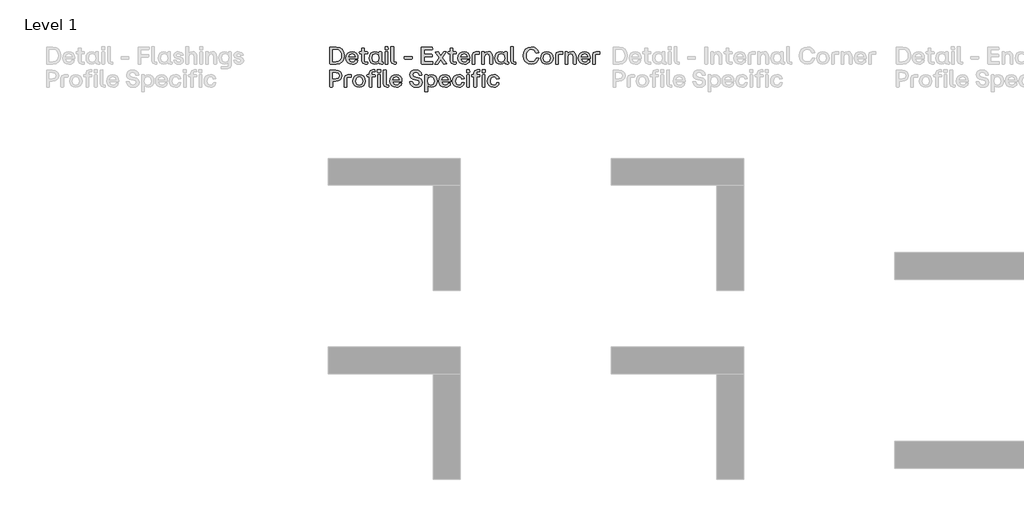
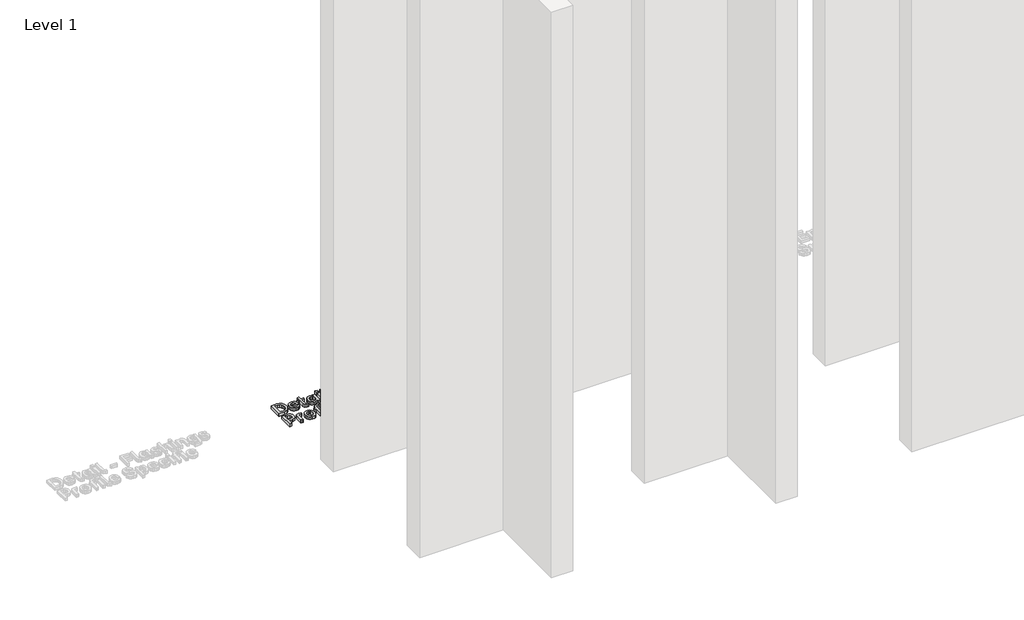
# One storey, part 57 of 64: 1 proxy.
"""IFC4 building model written with IfcOpenShell, lengths in millimetres."""

import ifcopenshell
import ifcopenshell.guid

model = None  # the IFC model being written
_history = None  # IfcOwnerHistory: only IFC2X3 demands one
_inside = {}  # id of a spatial element -> (the spatial element, [elements in it])
_under = {}  # id of a project, library or spatial element -> (it, [spatial elements below it])
_declared = {}  # id of a project -> (the project, [libraries it declares])
_typed = {}  # id of a type object -> (the type object, [elements of that type])
_made_of = {}  # id of a material, layer set ... -> (it, [elements and type objects made of it])


def new_model(schema):
    """Start an empty IFC model of exactly this schema.

    Asked for "IFC4X3", IfcOpenShell would pick the latest addendum, in which some entities
    have other attributes; the version numbers below select the first issue.
    IFC2X3 requires an IfcOwnerHistory on every rooted entity: one is made here for all.
    """
    global model, _history
    if schema == "IFC4X3":
        model = ifcopenshell.file(schema_version=(4, 3, 0, 0))
    else:
        model = ifcopenshell.file(schema=schema)
    _inside.clear()
    _under.clear()
    _declared.clear()
    _typed.clear()
    _made_of.clear()
    _history = None
    if model.schema == "IFC2X3":
        org = make("IfcOrganization", Name="unknown")
        user = make(
            "IfcPersonAndOrganization",
            ThePerson=make("IfcPerson", FamilyName="unknown"),
            TheOrganization=org,
        )
        app = make(
            "IfcApplication",
            ApplicationDeveloper=org,
            Version="unknown",
            ApplicationFullName="unknown",
            ApplicationIdentifier="unknown",
        )
        _history = make(
            "IfcOwnerHistory",
            OwningUser=user,
            OwningApplication=app,
            ChangeAction="ADDED",
            CreationDate=0,
        )
    return model


def make(cls, **values):
    """One entity of the class cls with the attributes given. An attribute that is None is left unset."""
    return model.create_entity(
        cls, **{name: value for name, value in values.items() if value is not None}
    )


def rooted(cls, **values):
    """An entity with a GlobalId (a new one), such as an element, a storey or a relation."""
    return make(cls, GlobalId=ifcopenshell.guid.new(), OwnerHistory=_history, **values)


def si_unit(unit_type, name, prefix=None):
    """IfcSIUnit, for example si_unit("LENGTHUNIT", "METRE", prefix="MILLI")."""
    return make("IfcSIUnit", UnitType=unit_type, Prefix=prefix, Name=name)


def assignment(units):
    """IfcUnitAssignment: the units of a project."""
    return None if units is None else make("IfcUnitAssignment", Units=units)


def point(xyz):
    """IfcCartesianPoint."""
    return None if xyz is None else make("IfcCartesianPoint", Coordinates=xyz)


def direction(xyz):
    """IfcDirection."""
    return None if xyz is None else make("IfcDirection", DirectionRatios=xyz)


def frame(location, z_axis=None, x_axis=None):
    """IfcAxis2Placement3D, a coordinate frame: its origin and axes. An axis left out is left unset."""
    return make(
        "IfcAxis2Placement3D",
        Location=point(location),
        Axis=direction(z_axis),
        RefDirection=direction(x_axis),
    )


def origin():
    """The frame at (0, 0, 0) with its axes left unset."""
    return frame((0.0, 0.0, 0.0))


def origin_with_axes():
    """The frame at (0, 0, 0) with the z axis (0, 0, 1) and the x axis (1, 0, 0) written out."""
    return frame((0.0, 0.0, 0.0), z_axis=(0.0, 0.0, 1.0), x_axis=(1.0, 0.0, 0.0))


def place(relative_to, where):
    """IfcLocalPlacement: puts the frame where relative to a parent placement (None: the world)."""
    return make(
        "IfcLocalPlacement", PlacementRelTo=relative_to, RelativePlacement=where
    )


def context(
    kind, dimensions, precision=None, world=None, true_north=None, identifier=None
):
    """IfcGeometricRepresentationContext, for example the 3D "Model" context."""
    return make(
        "IfcGeometricRepresentationContext",
        ContextIdentifier=identifier,
        ContextType=kind,
        CoordinateSpaceDimension=dimensions,
        Precision=precision,
        WorldCoordinateSystem=world,
        TrueNorth=true_north,
    )


def project(units=None, contexts=None):
    """IfcProject with its units and contexts."""
    return rooted(
        "IfcProject",
        Name="project",
        RepresentationContexts=contexts,
        UnitsInContext=assignment(units),
    )


def spatial(cls, under=None, at=None, **own):
    """A site, building, storey or space (cls), placed at a placement, below another one or the project."""
    s = rooted(cls, ObjectPlacement=at, **own)
    if under is not None:
        _under.setdefault(under.id(), (under, []))[1].append(s)
    return s


def polyline(points):
    """IfcPolyline through the points."""
    return make("IfcPolyline", Points=[point(p) for p in points])


def outline(outer, holes=None, kind="AREA"):
    """IfcArbitraryClosedProfileDef: a profile drawn as a closed curve; with holes, ...WithVoids."""
    if holes is None:
        return make("IfcArbitraryClosedProfileDef", ProfileType=kind, OuterCurve=outer)
    return make(
        "IfcArbitraryProfileDefWithVoids",
        ProfileType=kind,
        OuterCurve=outer,
        InnerCurves=holes,
    )


def extrude(swept, where, along, depth):
    """IfcExtrudedAreaSolid: the profile swept, set in the frame where, extruded along a direction by depth."""
    return make(
        "IfcExtrudedAreaSolid",
        SweptArea=swept,
        Position=where,
        ExtrudedDirection=direction(along),
        Depth=depth,
    )


def shape(context_of_items, identifier, shape_type, items):
    """IfcShapeRepresentation: the items that make up one representation, for example the "Body"."""
    return make(
        "IfcShapeRepresentation",
        ContextOfItems=context_of_items,
        RepresentationIdentifier=identifier,
        RepresentationType=shape_type,
        Items=items,
    )


def made_of(thing, what):
    """Note that an element or type object is made of a material, layer set ...; save() writes the relation."""
    if what is not None:
        _made_of.setdefault(what.id(), (what, []))[1].append(thing)
    return thing


def element(
    cls,
    number,
    at=None,
    inside=None,
    cuts=None,
    type_object=None,
    material=None,
    context=None,
    identifier="Body",
    shape_type=None,
    held_by="IfcProductDefinitionShape",
    body=None,
    shapes=None,
    **own,
):
    """One element of the class cls, such as IfcWall. Its Tag is "e" and its number.

    at: its placement. inside: the storey or other place that contains it. cuts: it is an
    opening in that element (IfcRelVoidsElement). A single representation is given by context,
    identifier, shape_type and body (its items); several are given by shapes. held_by: the class
    of the entity that holds the representations. save() writes the other relations.
    """
    e = rooted(cls, Tag="e%d" % number, ObjectPlacement=at, **own)
    if body is not None:
        shapes = [shape(context, identifier, shape_type, body)]
    if shapes is not None:
        e.Representation = make(held_by, Representations=shapes)
    if inside is not None:
        _inside.setdefault(inside.id(), (inside, []))[1].append(e)
    if cuts is not None:
        rooted(
            "IfcRelVoidsElement", RelatingBuildingElement=cuts, RelatedOpeningElement=e
        )
    if type_object is not None:
        _typed.setdefault(type_object.id(), (type_object, []))[1].append(e)
    return made_of(e, material)


def aggregate(whole, parts):
    """IfcRelAggregates: a whole, such as a stair, and the parts it consists of."""
    return rooted("IfcRelAggregates", RelatingObject=whole, RelatedObjects=parts)


def save(model, path):
    """Write the relations noted so far, then the file.

    IfcRelAggregates (storeys below a building ...), IfcRelContainedInSpatialStructure (elements
    in a storey), IfcRelDefinesByType, IfcRelAssociatesMaterial and IfcRelDeclares: one each for
    every whole, place, type object, material and project.
    """
    for whole, parts in _under.values():
        aggregate(whole, parts)
    for where, things in _inside.values():
        rooted(
            "IfcRelContainedInSpatialStructure",
            RelatedElements=things,
            RelatingStructure=where,
        )
    for kind, things in _typed.values():
        rooted("IfcRelDefinesByType", RelatedObjects=things, RelatingType=kind)
    for what, things in _made_of.values():
        rooted("IfcRelAssociatesMaterial", RelatedObjects=things, RelatingMaterial=what)
    for by, libraries in _declared.values():
        rooted("IfcRelDeclares", RelatingContext=by, RelatedDefinitions=libraries)
    model.write(path)


model = new_model("IFC4")

# Units and contexts
model_context = context("Model", 3, world=origin())
ifc_project = project(units=[si_unit("LENGTHUNIT", "METRE", prefix="MILLI")], contexts=[model_context])

# Site, building, storey
site = spatial("IfcSite", under=ifc_project)
building = spatial("IfcBuilding", under=site)
storey = spatial("IfcBuildingStorey", under=building, Name="Level 1", Elevation=0.0)

# Proxy
placement = place(None, origin())
element("IfcBuildingElementProxy", 1, Name="90mm", ObjectType="90mm", at=placement, inside=storey, context=model_context, shape_type="SweptSolid", body=[
    extrude(outline(polyline([(9110.2926176, 6000.0), (9108.9872124, 6001.2551973), (9108.9872124, 6088.6922388), (9142.5511873, 6089.997644), (9160.5475781, 6086.9945845), (9174.1193986, 6077.9854062), (9182.63905, 6063.6416394), (9185.4789338, 6044.6348148), (9182.648464, 6025.7974418), (9174.1570545, 6011.7109905), (9160.594648, 6002.9277476), (9142.5511873, 6000.0), (9110.2926176, 6000.0)]), holes=[polyline([(9123.7985402, 6012.6272845), (9141.6725492, 6012.6272845), (9153.8950326, 6014.688946), (9162.9481429, 6020.8739305), (9168.5494607, 6030.9374746), (9170.4165666, 6044.6348148), (9168.5431847, 6058.4890546), (9162.923039, 6068.8224661), (9153.8636527, 6075.2522141), (9141.6725492, 6077.3954634), (9123.7985402, 6077.3954634), (9123.7985402, 6012.6272845)])]), origin_with_axes(), (0.0, 0.0, 1.0), 20.0),
    extrude(outline(polyline([(9227.628458, 5999.2468816), (9214.0409476, 6001.5156507), (9203.5035666, 6008.3219579), (9196.7443293, 6018.9377888), (9194.4912502, 6032.6351289), (9196.7349153, 6046.4987827), (9203.4659107, 6057.2118914), (9213.9938777, 6064.0652685), (9227.628458, 6066.3497275), (9240.1584647, 6064.0966484), (9249.7324819, 6057.3374111), (9255.8044987, 6046.6870623), (9257.8285043, 6032.7606486), (9257.8285043, 6029.3214081), (9256.573307, 6027.990899), (9209.1268503, 6027.990899), (9214.6497183, 6015.3134066), (9227.628458, 6010.7946965), (9238.0465953, 6013.0917075), (9243.4439436, 6019.5308695), (9244.8246606, 6020.5852352), (9256.1967478, 6020.5852352), (9254.1633282, 6011.2685335), (9247.8120301, 6004.8074055), (9238.8248176, 6000.6370126), (9227.628458, 5999.2468816)]), holes=[polyline([(9209.2523701, 6038.4090363), (9243.8205028, 6038.4090363), (9239.0633051, 6050.3710663), (9227.628458, 6054.7266008), (9214.8631018, 6050.5844498), (9209.2523701, 6038.4090363)])]), origin_with_axes(), (0.0, 0.0, 1.0), 20.0),
    extrude(outline(polyline([(9296.6140998, 6000.0), (9282.731618, 6004.7697496), (9277.9618684, 6018.6522314), (9277.9618684, 6054.2245219), (9266.7906127, 6054.2245219), (9265.4852076, 6064.2661), (9266.7906127, 6065.5212973), (9277.9618684, 6065.5212973), (9277.9618684, 6083.54593), (9279.2170657, 6084.8513352), (9290.9657121, 6084.8513352), (9292.2209094, 6083.54593), (9292.2209094, 6065.5212973), (9308.0363949, 6065.5212973), (9309.3418001, 6064.2661), (9309.3418001, 6055.555031), (9292.2209094, 6054.2245219), (9292.2209094, 6011.2967754), (9308.0363949, 6011.2967754), (9309.3418001, 6010.0415781), (9309.3418001, 6001.2551973), (9308.0363949, 6000.0), (9296.6140998, 6000.0)])), origin_with_axes(), (0.0, 0.0, 1.0), 20.0),
    extrude(outline(polyline([(9347.2738615, 5999.2468816), (9335.3243835, 6001.5156507), (9326.0861316, 6008.3219579), (9320.1741525, 6018.9377888), (9318.2034928, 6032.6351289), (9320.1741525, 6046.4674028), (9326.0861316, 6057.1867875), (9335.3243835, 6064.0589925), (9347.2738615, 6066.3497275), (9359.1856835, 6063.4627738), (9368.160344, 6055.555031), (9368.7377347, 6064.2661), (9369.992932, 6065.5212973), (9381.6662665, 6065.5212973), (9382.9716717, 6064.2661), (9382.9716717, 6011.2967754), (9390.0760882, 6011.2967754), (9391.3312855, 6010.0415781), (9391.3312855, 6001.2551973), (9390.0760882, 6000.0), (9380.536589, 6000.0), (9372.1581473, 6002.3534949), (9369.3653333, 6009.4139795), (9359.7254183, 6002.1338354), (9347.2738615, 5999.2468816)]), holes=[polyline([(9332.7135732, 6032.6351289), (9337.6716024, 6016.6313638), (9343.5365116, 6012.2538633), (9351.2151809, 6010.7946965), (9358.7714684, 6012.2475873), (9364.470064, 6016.6062598), (9369.2398136, 6032.6351289), (9364.4324081, 6048.8271737), (9358.7243985, 6053.251744), (9351.2151809, 6054.7266008), (9343.5365116, 6053.251744), (9337.6716024, 6048.8271737), (9332.7135732, 6032.6351289)])]), origin_with_axes(), (0.0, 0.0, 1.0), 20.0),
    extrude(outline(polyline([(9403.6824266, 6000.0), (9402.3770214, 6001.2551973), (9402.3770214, 6064.2661), (9403.6824266, 6065.5212973), (9415.3557612, 6065.5212973), (9416.6109584, 6064.2661), (9416.6109584, 6001.2551973), (9415.3557612, 6000.0), (9403.6824266, 6000.0)])), origin_with_axes(), (0.0, 0.0, 1.0), 20.0),
    extrude(outline(polyline([(9401.3728636, 6078.1485818), (9401.3728636, 6092.0059596), (9402.6280609, 6093.3364687), (9416.4854387, 6093.3364687), (9417.8159478, 6078.1485818), (9416.4854387, 6076.8933845), (9402.6280609, 6076.8933845), (9401.3728636, 6078.1485818)])), origin_with_axes(), (0.0, 0.0, 1.0), 20.0),
    extrude(outline(polyline([(9451.5305464, 6000.0), (9437.6731686, 6004.7697496), (9432.903419, 6018.6522314), (9432.903419, 6091.2528413), (9445.8821587, 6092.5833504), (9447.137356, 6091.2528413), (9447.137356, 6011.2967754), (9459.1370418, 6011.2967754), (9460.3922391, 6010.0415781), (9460.3922391, 6001.2551973), (9459.1370418, 6000.0), (9451.5305464, 6000.0)])), origin_with_axes(), (0.0, 0.0, 1.0), 20.0),
    extrude(outline(polyline([(9505.1776775, 6027.112261), (9503.9224803, 6028.4427701), (9503.9224803, 6038.4090363), (9505.1776775, 6039.7395454), (9543.7875455, 6039.7395454), (9545.0427427, 6038.4090363), (9545.0427427, 6028.4427701), (9543.7875455, 6027.112261), (9505.1776775, 6027.112261)])), origin_with_axes(), (0.0, 0.0, 1.0), 20.0),
    extrude(outline(polyline([(9595.5016728, 6000.0), (9594.1962677, 6001.2551973), (9594.1962677, 6088.6922388), (9652.3119011, 6089.997644), (9653.6173063, 6078.6506607), (9652.3119011, 6077.3954634), (9609.0075954, 6077.3954634), (9609.0075954, 6051.5383998), (9649.7261947, 6051.5383998), (9651.0567038, 6050.2832025), (9651.0567038, 6040.2416244), (9649.7261947, 6038.9864271), (9609.0075954, 6038.9864271), (9609.0075954, 6012.6272845), (9653.6173063, 6012.6272845), (9654.8725035, 6011.2967754), (9654.8725035, 6001.2551973), (9653.6173063, 6000.0), (9595.5016728, 6000.0)])), origin_with_axes(), (0.0, 0.0, 1.0), 20.0),
    extrude(outline(polyline([(9665.2404329, 6000.0), (9688.2105429, 6033.2627276), (9666.2445908, 6064.0150606), (9680.6291514, 6065.5212973), (9682.185596, 6064.7681789), (9696.444637, 6043.9319043), (9711.2559647, 6064.7681789), (9712.7622014, 6065.5212973), (9725.8664609, 6065.5212973), (9704.9799784, 6034.7187564), (9728.4521673, 6001.5815486), (9714.0676066, 6000.0), (9712.511162, 6000.7531184), (9696.5701567, 6024.1750993), (9679.8760331, 6000.7531184), (9678.3697963, 6000.0), (9665.2404329, 6000.0)])), origin_with_axes(), (0.0, 0.0, 1.0), 20.0),
    extrude(outline(polyline([(9765.75663, 6000.0), (9751.8741483, 6004.7697496), (9747.1043986, 6018.6522314), (9747.1043986, 6054.2245219), (9735.933143, 6054.2245219), (9734.6277378, 6064.2661), (9735.933143, 6065.5212973), (9747.1043986, 6065.5212973), (9747.1043986, 6083.54593), (9748.3595959, 6084.8513352), (9760.1082423, 6084.8513352), (9761.3634396, 6083.54593), (9761.3634396, 6065.5212973), (9777.1789251, 6065.5212973), (9778.4843303, 6064.2661), (9778.4843303, 6055.555031), (9761.3634396, 6054.2245219), (9761.3634396, 6011.2967754), (9777.1789251, 6011.2967754), (9778.4843303, 6010.0415781), (9778.4843303, 6001.2551973), (9777.1789251, 6000.0), (9765.75663, 6000.0)])), origin_with_axes(), (0.0, 0.0, 1.0), 20.0),
    extrude(outline(polyline([(9820.4832308, 5999.2468816), (9806.8957204, 6001.5156507), (9796.3583394, 6008.3219579), (9789.5991021, 6018.9377888), (9787.346023, 6032.6351289), (9789.5896881, 6046.4987827), (9796.3206835, 6057.2118914), (9806.8486505, 6064.0652685), (9820.4832308, 6066.3497275), (9833.0132375, 6064.0966484), (9842.5872547, 6057.3374111), (9848.6592715, 6046.6870623), (9850.6832771, 6032.7606486), (9850.6832771, 6029.3214081), (9849.4280798, 6027.990899), (9801.9816231, 6027.990899), (9807.5044911, 6015.3134066), (9820.4832308, 6010.7946965), (9830.9013681, 6013.0917075), (9836.2987164, 6019.5308695), (9837.6794334, 6020.5852352), (9849.0515206, 6020.5852352), (9847.018101, 6011.2685335), (9840.6668029, 6004.8074055), (9831.6795905, 6000.6370126), (9820.4832308, 5999.2468816)]), holes=[polyline([(9802.1071429, 6038.4090363), (9836.6752756, 6038.4090363), (9831.9180779, 6050.3710663), (9820.4832308, 6054.7266008), (9807.7178746, 6050.5844498), (9802.1071429, 6038.4090363)])]), origin_with_axes(), (0.0, 0.0, 1.0), 20.0),
    extrude(outline(polyline([(9864.1138878, 6000.0), (9862.8586905, 6001.2551973), (9862.8586905, 6046.9443778), (9867.6284402, 6060.7892036), (9881.485818, 6065.5212973), (9899.7614902, 6065.5212973), (9901.0166874, 6064.2661), (9901.0166874, 6054.7266008), (9899.7614902, 6053.4714035), (9877.0926275, 6053.4714035), (9877.0926275, 6001.2551973), (9875.8374303, 6000.0), (9864.1138878, 6000.0)])), origin_with_axes(), (0.0, 0.0, 1.0), 20.0),
    extrude(outline(polyline([(9914.5979219, 6000.0), (9913.2925167, 6001.2551973), (9913.2925167, 6064.2661), (9914.5979219, 6065.5212973), (9925.6436578, 6065.5212973), (9926.8988551, 6064.2661), (9926.8988551, 6055.555031), (9936.1935908, 6063.6510534), (9948.1116889, 6066.3497275), (9958.0371613, 6064.4669316), (9965.3204434, 6058.8185439), (9969.7920837, 6049.5426361), (9971.2826304, 6036.7772799), (9971.2826304, 6001.2551973), (9969.9521213, 6000.0), (9958.2787867, 6000.0), (9956.9733816, 6001.2551973), (9956.9733816, 6036.7772799), (9953.4588292, 6050.057267), (9942.3503334, 6054.2245219), (9931.1414218, 6049.9945071), (9927.5264537, 6036.7772799), (9927.5264537, 6001.2551973), (9926.2712564, 6000.0), (9914.5979219, 6000.0)])), origin_with_axes(), (0.0, 0.0, 1.0), 20.0),
    extrude(outline(polyline([(10012.4279968, 5999.2468816), (10000.4785188, 6001.5156507), (9991.2402669, 6008.3219579), (9985.3282878, 6018.9377888), (9983.3576281, 6032.6351289), (9985.3282878, 6046.4674028), (9991.2402669, 6057.1867875), (10000.4785188, 6064.0589925), (10012.4279968, 6066.3497275), (10024.3398188, 6063.4627738), (10033.3144793, 6055.555031), (10033.89187, 6064.2661), (10035.1470673, 6065.5212973), (10046.8204019, 6065.5212973), (10048.125807, 6064.2661), (10048.125807, 6011.2967754), (10055.2302236, 6011.2967754), (10056.4854208, 6010.0415781), (10056.4854208, 6001.2551973), (10055.2302236, 6000.0), (10045.6907243, 6000.0), (10037.3122826, 6002.3534949), (10034.5194687, 6009.4139795), (10024.8795537, 6002.1338354), (10012.4279968, 5999.2468816)]), holes=[polyline([(9997.8677085, 6032.6351289), (10002.8257377, 6016.6313638), (10008.6906469, 6012.2538633), (10016.3693162, 6010.7946965), (10023.9256038, 6012.2475873), (10029.6241993, 6016.6062598), (10034.393949, 6032.6351289), (10029.5865434, 6048.8271737), (10023.8785339, 6053.251744), (10016.3693162, 6054.7266008), (10008.6906469, 6053.251744), (10002.8257377, 6048.8271737), (9997.8677085, 6032.6351289)])]), origin_with_axes(), (0.0, 0.0, 1.0), 20.0),
    extrude(outline(polyline([(10086.1582842, 6000.0), (10072.3009064, 6004.7697496), (10067.5311568, 6018.6522314), (10067.5311568, 6091.2528413), (10080.5098965, 6092.5833504), (10081.7650938, 6091.2528413), (10081.7650938, 6011.2967754), (10093.7647796, 6011.2967754), (10095.0199769, 6010.0415781), (10095.0199769, 6001.2551973), (10093.7647796, 6000.0), (10086.1582842, 6000.0)])), origin_with_axes(), (0.0, 0.0, 1.0), 20.0),
    extrude(outline(polyline([(10177.0847742, 5999.2468816), (10159.0726934, 6002.3315289), (10145.2027636, 6011.5854708), (10136.3536229, 6026.1112411), (10133.4039093, 6045.011374), (10136.3787268, 6063.5945695), (10145.3031794, 6078.1736857), (10159.1982131, 6087.6064932), (10177.0847742, 6090.7507624), (10191.0331538, 6088.6734109), (10202.6029346, 6082.4413564), (10210.9217545, 6072.7575095), (10215.1172513, 6060.3247806), (10201.9376801, 6058.8687518), (10200.5067552, 6059.9984293), (10192.6429443, 6073.6110437), (10177.0847742, 6078.1485818), (10165.1604002, 6075.9268826), (10156.0978759, 6069.2617852), (10150.3741764, 6058.755784), (10148.4662765, 6045.011374), (10150.3647624, 6031.0535804), (10156.06022, 6020.5601312), (10165.1133303, 6013.9891735), (10177.0847742, 6011.7988543), (10192.9504676, 6016.2736326), (10201.3853933, 6029.6979673), (10202.8163181, 6030.8778528), (10214.7406922, 6030.8778528), (10211.5681811, 6017.1208907), (10203.1050135, 6007.5311836), (10191.3469531, 6001.3179571), (10177.0847742, 5999.2468816)])), origin_with_axes(), (0.0, 0.0, 1.0), 20.0),
    extrude(outline(polyline([(10258.7228044, 5999.2468816), (10245.4961632, 6001.5533066), (10235.037232, 6008.4725815), (10228.2309248, 6019.1260683), (10225.9621557, 6032.6351289), (10228.2372008, 6046.2320533), (10235.0623359, 6056.9985079), (10245.5275431, 6064.0119226), (10258.7228044, 6066.3497275), (10272.0749653, 6064.0119226), (10282.6092084, 6056.9985079), (10289.4531714, 6046.2320533), (10291.7344925, 6032.6351289), (10289.4531714, 6019.1260683), (10282.6092084, 6008.4725815), (10272.0749653, 6001.5533066), (10258.7228044, 5999.2468816)]), holes=[polyline([(10240.4722361, 6032.6351289), (10245.3298495, 6016.6062598), (10251.106895, 6012.2475873), (10258.7228044, 6010.7946965), (10266.4203016, 6012.2538633), (10272.2914868, 6016.6313638), (10277.249516, 6032.6351289), (10272.3165908, 6048.8271737), (10266.4516815, 6053.251744), (10258.7228044, 6054.7266008), (10251.106895, 6053.251744), (10245.3298495, 6048.8271737), (10240.4722361, 6032.6351289)])]), origin_with_axes(), (0.0, 0.0, 1.0), 20.0),
    extrude(outline(polyline([(10305.9433255, 6000.0), (10304.6881283, 6001.2551973), (10304.6881283, 6046.9443778), (10309.4578779, 6060.7892036), (10323.3152557, 6065.5212973), (10341.5909279, 6065.5212973), (10342.8461252, 6064.2661), (10342.8461252, 6054.7266008), (10341.5909279, 6053.4714035), (10318.9220653, 6053.4714035), (10318.9220653, 6001.2551973), (10317.666868, 6000.0), (10305.9433255, 6000.0)])), origin_with_axes(), (0.0, 0.0, 1.0), 20.0),
    extrude(outline(polyline([(10356.4273596, 6000.0), (10355.1219544, 6001.2551973), (10355.1219544, 6064.2661), (10356.4273596, 6065.5212973), (10367.4730955, 6065.5212973), (10368.7282928, 6064.2661), (10368.7282928, 6055.555031), (10378.0230286, 6063.6510534), (10389.9411266, 6066.3497275), (10399.866599, 6064.4669316), (10407.1498811, 6058.8185439), (10411.6215214, 6049.5426361), (10413.1120681, 6036.7772799), (10413.1120681, 6001.2551973), (10411.781559, 6000.0), (10400.1082245, 6000.0), (10398.8028193, 6001.2551973), (10398.8028193, 6036.7772799), (10395.2882669, 6050.057267), (10384.1797711, 6054.2245219), (10372.9708596, 6049.9945071), (10369.3558914, 6036.7772799), (10369.3558914, 6001.2551973), (10368.1006942, 6000.0), (10356.4273596, 6000.0)])), origin_with_axes(), (0.0, 0.0, 1.0), 20.0),
    extrude(outline(polyline([(10458.3242737, 5999.2468816), (10444.7367633, 6001.5156507), (10434.1993822, 6008.3219579), (10427.4401449, 6018.9377888), (10425.1870658, 6032.6351289), (10427.4307309, 6046.4987827), (10434.1617263, 6057.2118914), (10444.6896934, 6064.0652685), (10458.3242737, 6066.3497275), (10470.8542804, 6064.0966484), (10480.4282975, 6057.3374111), (10486.5003143, 6046.6870623), (10488.5243199, 6032.7606486), (10488.5243199, 6029.3214081), (10487.2691226, 6027.990899), (10439.822666, 6027.990899), (10445.3455339, 6015.3134066), (10458.3242737, 6010.7946965), (10468.742411, 6013.0917075), (10474.1397592, 6019.5308695), (10475.5204762, 6020.5852352), (10486.8925634, 6020.5852352), (10484.8591439, 6011.2685335), (10478.5078457, 6004.8074055), (10469.5206333, 6000.6370126), (10458.3242737, 5999.2468816)]), holes=[polyline([(10439.9481857, 6038.4090363), (10474.5163184, 6038.4090363), (10469.7591208, 6050.3710663), (10458.3242737, 6054.7266008), (10445.5589175, 6050.5844498), (10439.9481857, 6038.4090363)])]), origin_with_axes(), (0.0, 0.0, 1.0), 20.0),
    extrude(outline(polyline([(10501.9549306, 6000.0), (10500.6997334, 6001.2551973), (10500.6997334, 6046.9443778), (10505.469483, 6060.7892036), (10519.3268608, 6065.5212973), (10537.602533, 6065.5212973), (10538.8577303, 6064.2661), (10538.8577303, 6054.7266008), (10537.602533, 6053.4714035), (10514.9336704, 6053.4714035), (10514.9336704, 6001.2551973), (10513.6784731, 6000.0), (10501.9549306, 6000.0)])), origin_with_axes(), (0.0, 0.0, 1.0), 20.0),
    extrude(outline(polyline([(9110.2926176, 5877.86695), (9108.9872124, 5879.1221472), (9108.9872124, 5966.5591888), (9140.1161046, 5967.864594), (9154.0174144, 5965.9661081), (9164.3414119, 5960.2706505), (9170.7429179, 5951.0763305), (9172.8767533, 5938.6812575), (9170.7429179, 5926.2861845), (9164.3414119, 5917.0918646), (9154.0174144, 5911.396407), (9140.1161046, 5909.4979211), (9123.7985402, 5909.4979211), (9123.7985402, 5879.1221472), (9122.4680311, 5877.86695), (9110.2926176, 5877.86695)]), holes=[polyline([(9123.7985402, 5922.1252056), (9140.1161046, 5922.1252056), (9153.5969233, 5926.2045967), (9157.9901137, 5938.6938095), (9153.5969233, 5951.1830223), (9140.1161046, 5955.2624134), (9123.7985402, 5955.2624134), (9123.7985402, 5922.1252056)])]), origin_with_axes(), (0.0, 0.0, 1.0), 20.0),
    extrude(outline(polyline([(9186.1065325, 5877.86695), (9184.8513352, 5879.1221472), (9184.8513352, 5924.8113277), (9189.6210848, 5938.6561536), (9203.4784626, 5943.3882473), (9221.7541348, 5943.3882473), (9223.0093321, 5942.13305), (9223.0093321, 5932.5935508), (9221.7541348, 5931.3383535), (9199.0852722, 5931.3383535), (9199.0852722, 5879.1221472), (9197.8300749, 5877.86695), (9186.1065325, 5877.86695)])), origin_with_axes(), (0.0, 0.0, 1.0), 20.0),
    extrude(outline(polyline([(9264.2049064, 5877.1138316), (9250.9782652, 5879.4202566), (9240.519334, 5886.3395315), (9233.7130268, 5896.9930183), (9231.4442577, 5910.5020789), (9233.7193028, 5924.0990033), (9240.5444379, 5934.8654578), (9251.0096451, 5941.8788726), (9264.2049064, 5944.2166775), (9277.5570673, 5941.8788726), (9288.0913103, 5934.8654578), (9294.9352734, 5924.0990033), (9297.2165945, 5910.5020789), (9294.9352734, 5896.9930183), (9288.0913103, 5886.3395315), (9277.5570673, 5879.4202566), (9264.2049064, 5877.1138316)]), holes=[polyline([(9245.9543381, 5910.5020789), (9250.8119515, 5894.4732098), (9256.588997, 5890.1145373), (9264.2049064, 5888.6616465), (9271.9024036, 5890.1208133), (9277.7735888, 5894.4983138), (9282.731618, 5910.5020789), (9277.7986928, 5926.6941236), (9271.9337835, 5931.118694), (9264.2049064, 5932.5935508), (9256.588997, 5931.118694), (9250.8119515, 5926.6941236), (9245.9543381, 5910.5020789)])]), origin_with_axes(), (0.0, 0.0, 1.0), 20.0),
    extrude(outline(polyline([(9361.3069669, 5956.0155318), (9361.3069669, 5969.8729096), (9362.5621642, 5971.2034187), (9376.4948538, 5971.2034187), (9377.7500511, 5969.8729096), (9377.7500511, 5956.0155318), (9376.4948538, 5954.7603345), (9362.5621642, 5954.7603345), (9361.3069669, 5956.0155318)])), origin_with_axes(), (0.0, 0.0, 1.0), 20.0),
    extrude(outline(polyline([(9362.3111247, 5879.1221472), (9362.3111247, 5942.13305), (9363.6416338, 5943.3882473), (9375.3149684, 5943.3882473), (9376.6203735, 5942.13305), (9376.6203735, 5879.1221472), (9375.3149684, 5877.86695), (9363.6416338, 5877.86695), (9362.3111247, 5879.1221472)])), origin_with_axes(), (0.0, 0.0, 1.0), 20.0),
    extrude(outline(polyline([(9319.3833782, 5877.86695), (9318.1281809, 5879.1221472), (9318.1281809, 5932.0914719), (9306.9569253, 5932.0914719), (9305.6515201, 5942.13305), (9306.9569253, 5943.3882473), (9318.1281809, 5943.3882473), (9318.1281809, 5951.798069), (9322.8979305, 5965.6805507), (9336.7804123, 5970.4503003), (9348.2027074, 5970.4503003), (9349.5081126, 5960.4087222), (9332.3872219, 5959.0782131), (9332.3872219, 5943.3882473), (9348.2027074, 5943.3882473), (9349.5081126, 5942.13305), (9349.5081126, 5933.421981), (9332.3872219, 5932.0914719), (9332.3872219, 5879.1221472), (9331.1320246, 5877.86695), (9319.3833782, 5877.86695)])), origin_with_axes(), (0.0, 0.0, 1.0), 20.0),
    extrude(outline(polyline([(9411.3642339, 5877.86695), (9397.506856, 5882.6366996), (9392.7371064, 5896.5191814), (9392.7371064, 5969.1197912), (9405.7158462, 5970.4503003), (9406.9710434, 5969.1197912), (9406.9710434, 5889.1637254), (9418.9707293, 5889.1637254), (9420.2259266, 5887.9085281), (9420.2259266, 5879.1221472), (9418.9707293, 5877.86695), (9411.3642339, 5877.86695)])), origin_with_axes(), (0.0, 0.0, 1.0), 20.0),
    extrude(outline(polyline([(9460.5930707, 5877.1138316), (9447.0055602, 5879.3826007), (9436.4681792, 5886.1889079), (9429.7089419, 5896.8047387), (9427.4558628, 5910.5020789), (9429.6995279, 5924.3657327), (9436.4305233, 5935.0788414), (9446.9584903, 5941.9322185), (9460.5930707, 5944.2166775), (9473.1230774, 5941.9635984), (9482.6970945, 5935.2043611), (9488.7691113, 5924.5540123), (9490.7931169, 5910.6275986), (9490.7931169, 5907.1883581), (9489.5379196, 5905.857849), (9442.0914629, 5905.857849), (9447.6143309, 5893.1803566), (9460.5930707, 5888.6616465), (9471.011208, 5890.9586575), (9476.4085562, 5897.3978194), (9477.7892732, 5898.4521852), (9489.1613604, 5898.4521852), (9487.1279409, 5889.1354834), (9480.7766427, 5882.6743555), (9471.7894303, 5878.5039626), (9460.5930707, 5877.1138316)]), holes=[polyline([(9442.2169827, 5916.2759863), (9476.7851154, 5916.2759863), (9472.0279177, 5928.2380163), (9460.5930707, 5932.5935508), (9447.8277145, 5928.4513998), (9442.2169827, 5916.2759863)])]), origin_with_axes(), (0.0, 0.0, 1.0), 20.0),
    extrude(outline(polyline([(9566.8831752, 5877.1138316), (9553.1136611, 5878.9652476), (9542.4319324, 5884.5194955), (9535.1706162, 5893.4941559), (9531.6623399, 5905.6068096), (9544.917223, 5907.0628384), (9546.2226282, 5905.857849), (9552.4107507, 5893.3058764), (9566.8831752, 5889.4147648), (9579.3974919, 5892.992077), (9583.8785461, 5902.9206874), (9580.7782089, 5911.1673335), (9570.3977275, 5915.2718285), (9558.5235614, 5917.355456), (9547.5186193, 5920.6095549), (9539.6579465, 5925.9284533), (9534.9415427, 5933.3121512), (9533.3694082, 5942.7606486), (9535.3839998, 5953.602415), (9541.4277746, 5961.7768872), (9551.0802416, 5966.9075061), (9563.9209096, 5968.6177123), (9576.6548859, 5966.8855401), (9586.5897722, 5961.6890234), (9593.3803895, 5953.3356856), (9596.6815583, 5942.13305), (9583.501987, 5940.7021251), (9582.0710621, 5942.13305), (9576.2594987, 5952.8398827), (9563.9209096, 5956.2665712), (9552.1597112, 5953.1285781), (9548.1054241, 5943.965638), (9551.7203922, 5935.267121), (9563.0422715, 5930.7107549), (9574.8411258, 5928.6522314), (9585.6609263, 5925.4828583), (9593.0163822, 5920.3930334), (9597.2338451, 5913.0626813), (9598.639666, 5903.1717269), (9596.5277966, 5892.2577866), (9590.1921884, 5884.0174166), (9580.1411963, 5878.8397279), (9566.8831752, 5877.1138316)])), origin_with_axes(), (0.0, 0.0, 1.0), 20.0),
    extrude(outline(polyline([(9614.1539042, 5853.4659151), (9612.848499, 5854.7211124), (9612.848499, 5942.13305), (9614.1539042, 5943.3882473), (9625.1996401, 5943.3882473), (9626.4548374, 5942.13305), (9626.4548374, 5933.5475007), (9636.0947524, 5941.3297238), (9648.5463093, 5944.2166775), (9660.4957873, 5941.9416324), (9669.7340392, 5935.1164973), (9675.6460183, 5924.4755625), (9677.616678, 5910.7531184), (9675.6460183, 5896.9459484), (9669.7340392, 5886.2516677), (9660.4957873, 5879.3982906), (9648.5463093, 5877.1138316), (9636.6344872, 5880.0007853), (9627.6598268, 5887.9085281), (9627.082436, 5854.7211124), (9625.8272388, 5853.4659151), (9614.1539042, 5853.4659151)]), holes=[polyline([(9626.5803571, 5910.7531184), (9631.3877627, 5894.5610736), (9637.0957722, 5890.1365033), (9644.6049899, 5888.6616465), (9652.2836592, 5890.1365033), (9658.1485684, 5894.5610736), (9663.1065976, 5910.7531184), (9658.1485684, 5926.7568835), (9652.2836592, 5931.134384), (9644.6049899, 5932.5935508), (9637.0487023, 5931.143798), (9631.3501068, 5926.7945394), (9626.5803571, 5910.7531184)])]), origin_with_axes(), (0.0, 0.0, 1.0), 20.0),
    extrude(outline(polyline([(9719.2641233, 5877.1138316), (9705.6766129, 5879.3826007), (9695.1392318, 5886.1889079), (9688.3799945, 5896.8047387), (9686.1269155, 5910.5020789), (9688.3705806, 5924.3657327), (9695.1015759, 5935.0788414), (9705.629543, 5941.9322185), (9719.2641233, 5944.2166775), (9731.79413, 5941.9635984), (9741.3681471, 5935.2043611), (9747.4401639, 5924.5540123), (9749.4641695, 5910.6275986), (9749.4641695, 5907.1883581), (9748.2089722, 5905.857849), (9700.7625156, 5905.857849), (9706.2853836, 5893.1803566), (9719.2641233, 5888.6616465), (9729.6822606, 5890.9586575), (9735.0796088, 5897.3978194), (9736.4603258, 5898.4521852), (9747.8324131, 5898.4521852), (9745.7989935, 5889.1354834), (9739.4476953, 5882.6743555), (9730.4604829, 5878.5039626), (9719.2641233, 5877.1138316)]), holes=[polyline([(9700.8880353, 5916.2759863), (9735.456168, 5916.2759863), (9730.6989704, 5928.2380163), (9719.2641233, 5932.5935508), (9706.4987671, 5928.4513998), (9700.8880353, 5916.2759863)])]), origin_with_axes(), (0.0, 0.0, 1.0), 20.0),
    extrude(outline(polyline([(9791.4379661, 5877.1138316), (9777.9445955, 5879.3826007), (9767.4385944, 5886.1889079), (9760.6793571, 5896.8047387), (9758.426278, 5910.5020789), (9760.710737, 5924.0990033), (9767.5641141, 5934.8654578), (9778.1014951, 5941.8788726), (9791.4379661, 5944.2166775), (9802.4209422, 5942.6696468), (9811.3704987, 5938.028555), (9817.6841409, 5930.8456886), (9820.7593742, 5921.6733346), (9808.1320897, 5920.2926176), (9801.7054797, 5929.8321168), (9791.4379661, 5932.5935508), (9783.680847, 5931.118694), (9777.8316277, 5926.6941236), (9772.9363584, 5910.5020789), (9777.8567317, 5894.4355539), (9783.7122269, 5890.1051233), (9791.4379661, 5888.6616465), (9802.019279, 5891.2975607), (9807.3789714, 5899.8329021), (9808.7596884, 5901.0378915), (9820.1317756, 5901.0378915), (9818.12346, 5890.5287524), (9811.7470579, 5883.3019541), (9802.7033616, 5878.6608623), (9791.4379661, 5877.1138316)])), origin_with_axes(), (0.0, 0.0, 1.0), 20.0),
    extrude(outline(polyline([(9835.8719493, 5877.86695), (9834.5665442, 5879.1221472), (9834.5665442, 5942.13305), (9835.8719493, 5943.3882473), (9847.5452839, 5943.3882473), (9848.8004812, 5942.13305), (9848.8004812, 5879.1221472), (9847.5452839, 5877.86695), (9835.8719493, 5877.86695)])), origin_with_axes(), (0.0, 0.0, 1.0), 20.0),
    extrude(outline(polyline([(9833.5623863, 5956.0155318), (9833.5623863, 5969.8729096), (9834.8175836, 5971.2034187), (9848.6749614, 5971.2034187), (9850.0054705, 5956.0155318), (9848.6749614, 5954.7603345), (9834.8175836, 5954.7603345), (9833.5623863, 5956.0155318)])), origin_with_axes(), (0.0, 0.0, 1.0), 20.0),
    extrude(outline(polyline([(9873.678491, 5877.86695), (9872.4232937, 5879.1221472), (9872.4232937, 5932.0914719), (9861.252038, 5932.0914719), (9859.9466329, 5942.13305), (9861.252038, 5943.3882473), (9872.4232937, 5943.3882473), (9872.4232937, 5951.798069), (9877.1930433, 5965.6805507), (9891.0755251, 5970.4503003), (9902.4978202, 5970.4503003), (9903.8032254, 5960.4087222), (9886.6823347, 5959.0782131), (9886.6823347, 5943.3882473), (9902.4978202, 5943.3882473), (9903.8032254, 5942.13305), (9903.8032254, 5933.421981), (9886.6823347, 5932.0914719), (9886.6823347, 5879.1221472), (9885.4271374, 5877.86695), (9873.678491, 5877.86695)])), origin_with_axes(), (0.0, 0.0, 1.0), 20.0),
    extrude(outline(polyline([(9915.6020797, 5956.0155318), (9915.6020797, 5969.8729096), (9916.8572769, 5971.2034187), (9930.7899666, 5971.2034187), (9932.0451639, 5969.8729096), (9932.0451639, 5956.0155318), (9930.7899666, 5954.7603345), (9916.8572769, 5954.7603345), (9915.6020797, 5956.0155318)])), origin_with_axes(), (0.0, 0.0, 1.0), 20.0),
    extrude(outline(polyline([(9916.6062375, 5879.1221472), (9916.6062375, 5942.13305), (9917.9367466, 5943.3882473), (9929.6100812, 5943.3882473), (9930.9154863, 5942.13305), (9930.9154863, 5879.1221472), (9929.6100812, 5877.86695), (9917.9367466, 5877.86695), (9916.6062375, 5879.1221472)])), origin_with_axes(), (0.0, 0.0, 1.0), 20.0),
    extrude(outline(polyline([(9976.2030037, 5877.1138316), (9962.7096331, 5879.3826007), (9952.203632, 5886.1889079), (9945.4443947, 5896.8047387), (9943.1913156, 5910.5020789), (9945.4757746, 5924.0990033), (9952.3291517, 5934.8654578), (9962.8665327, 5941.8788726), (9976.2030037, 5944.2166775), (9987.1859798, 5942.6696468), (9996.1355363, 5938.028555), (10002.4491785, 5930.8456886), (10005.5244118, 5921.6733346), (9992.8971273, 5920.2926176), (9986.4705173, 5929.8321168), (9976.2030037, 5932.5935508), (9968.4458846, 5931.118694), (9962.5966653, 5926.6941236), (9957.701396, 5910.5020789), (9962.6217693, 5894.4355539), (9968.4772645, 5890.1051233), (9976.2030037, 5888.6616465), (9986.7843166, 5891.2975607), (9992.144009, 5899.8329021), (9993.524726, 5901.0378915), (10004.8968132, 5901.0378915), (10002.8884976, 5890.5287524), (9996.5120955, 5883.3019541), (9987.4683992, 5878.6608623), (9976.2030037, 5877.1138316)])), origin_with_axes(), (0.0, 0.0, 1.0), 20.0),
])

save(model, "model.ifc")
